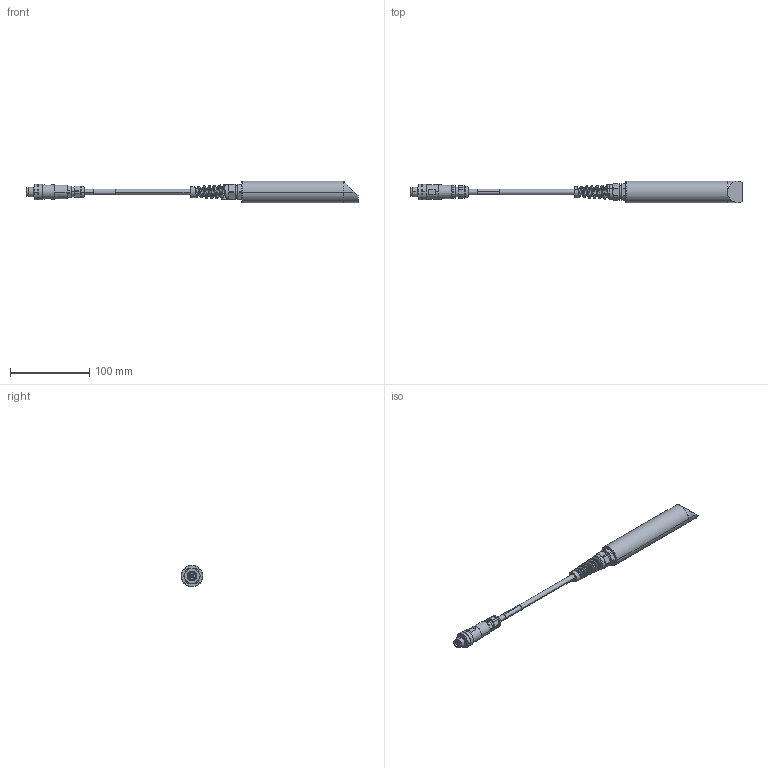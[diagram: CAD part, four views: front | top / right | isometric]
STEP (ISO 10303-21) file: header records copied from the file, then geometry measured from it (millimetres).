
FILE_DESCRIPTION(('CATIA V5 STEP Exchange'),'2;1');
FILE_NAME('C:\Users\cu2001\Catia Dateien\9 STEP-Dateien\202670 ecoLine NTU\202670_10-8-21-10 TN 00661267.stp','2017-05-11T13:47:24+00:00',('none'),('none'),'CATIA Version 5 Release 20 SP 7 (IN-10)','CATIA V5 STEP AP203','none');
FILE_SCHEMA(('CONFIG_CONTROL_DESIGN'));
Length unit declared in the file: millimetre
Products named in the file (1): 2026/70-10-8-21-10
Bounding box: 420.1 x 27 x 27 mm (x, y, z)
Volume: 110608.9 mm3; surface area: 33155.9 mm2
Topology: 10 solids, 10 shells, 619 faces, 1659 edges, 1026 vertices
Faces by surface type: cylinder 278, plane 184, cone 75, bspline 37, torus 25, sphere 20
Entity records: 22091 total; most frequent: CARTESIAN_POINT 8476, ORIENTED_EDGE 3252, DIRECTION 2006, EDGE_CURVE 1626, AXIS2_PLACEMENT_3D 1108, VERTEX_POINT 1026, CIRCLE 754, EDGE_LOOP 690
